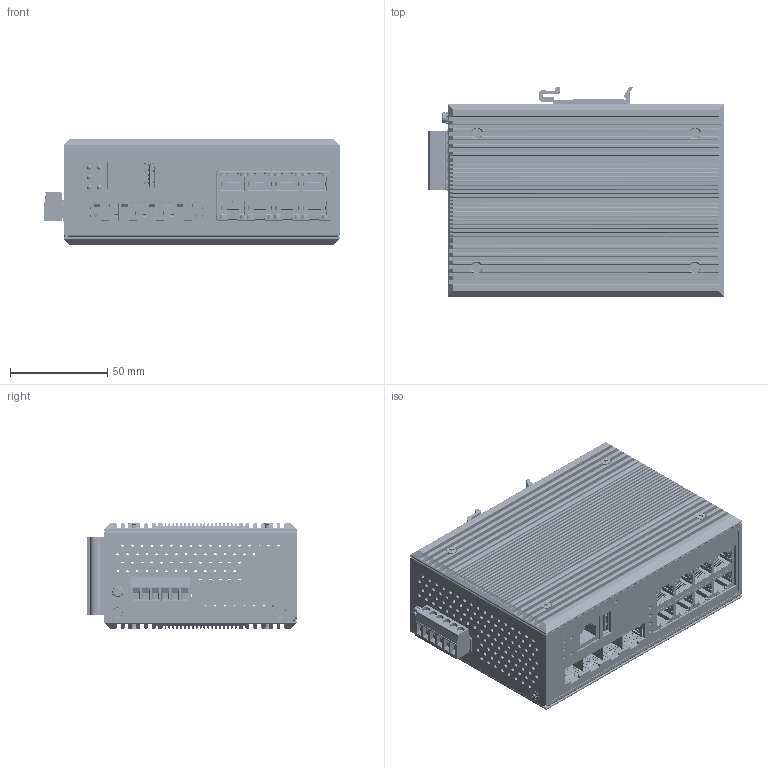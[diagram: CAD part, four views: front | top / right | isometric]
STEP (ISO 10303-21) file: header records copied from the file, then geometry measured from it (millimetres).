
FILE_DESCRIPTION( ( '' ), ' ' );
FILE_NAME( '/vol/tmp/translate-16639431096383177431/5e5d5792816ffa1378f52c80.step', '2020-03-02T18:59:34', ( '' ), ( '' ), ' ', ' ', ' ' );
FILE_SCHEMA( ( 'AUTOMOTIVE_DESIGN { 1 0 10303 214 1 1 1 1 }' ) );
Length unit declared in the file: metre
Products named in the file (79): SFP; SOCKET; RJ; GRN_LED; AMBER_LED; RM1-P110-LAST_ANY_1_3; RM1-P110-LAST_ANY_1_2; RM1-P110-LAST_ANY_1_1; RM1-P110-LAST_ANY_1; SHIELD; SW_1; 3PCS_LED_ANY_1_1; 3PCS_LED_ANY_1; 6100V80000_ANY_1; PRT0039_1; TERMINAL; BOTTOM_CASE; TOP_CASE; LT_SIDE; RT_SIDE; M3_SCREW_GND; SCREW_M3X4_F_1_17; SCREW_M3X4_F_1_16; SCREW_M3X4_F_1_15; SCREW_M3X4_F_1_14; SCREW_M3X4_F_1_13; SCREW_M3X4_F_1_12; SCREW_M3X4_F_1_11; SCREW_M3X4_F_1_10; SCREW_M3X4_F_1_9; SCREW_M3X4_F_1_8; SCREW_M3X4_F_1_7; SCREW_M3X4_F_1_6; SCREW_M3X4_F_1_5; SCREW_M3X4_F_1_4; SCREW_M3X4_F_1_3; DIN_RAIL; SCREW_M3X4_F_1_2; SCREW_M3X4_F_1_1; SCREW_M3X4_F_1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
Bounding box: 152.12 x 107.8 x 54 mm (x, y, z)
Volume: 122011.1 mm3; surface area: 227672.1 mm2
Topology: 57 solids, 1478 shells, 8302 faces, 27646 edges, 20596 vertices
Faces by surface type: plane 6026, cylinder 1854, bspline 116, extrusion 100, cone 87, torus 74, sphere 45
Full cylindrical faces by diameter (mm): 0.5 x12, 1.5 x1, 1.8 x1, 1.9 x245, 2 x65, 2.3 x5, 2.8 x5, 2.9 x8, 3 x37, 3.15 x2, 3.2 x11, 3.4 x8, 3.5 x7, 3.783 x6, 4 x21, 5 x31, 5.5 x1
Entity records: 373406 total; most frequent: CARTESIAN_POINT 71146, ORIENTED_EDGE 45772, DIRECTION 45348, EDGE_CURVE 26800, VECTOR 21502, LINE 21402, VERTEX_POINT 20343, AXIS2_PLACEMENT_3D 11923
